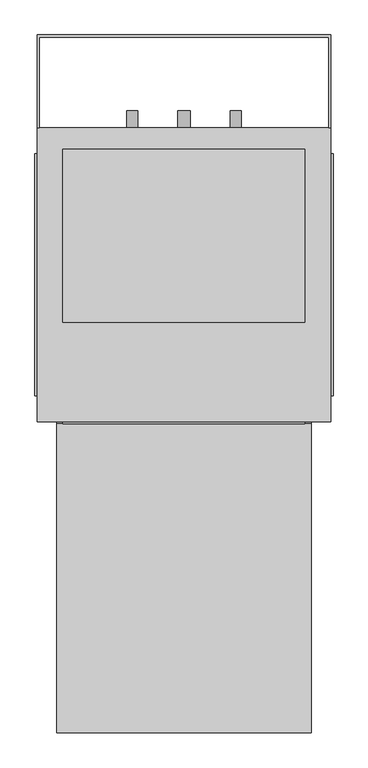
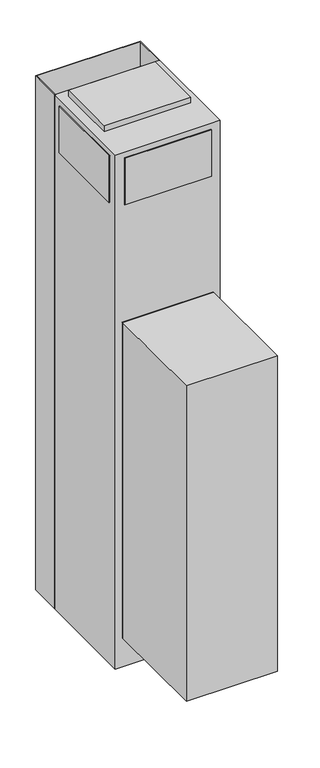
"""IFC4 building model written with IfcOpenShell, lengths in millimetres: proxy geometry, Exposed_Modular_Fan_Coil_Unit_-_MXY_-_IEC_-_2-Pipe_Cool-EHeat_-_NoRisers_2022 : Size 03 - 277v/60Hz/1Ph - 4 Row 3.0kW."""

from ifc_helpers import new_model, si_unit, point, frame, frame_2d, origin, origin_with_axes, place, context, project, spatial, polyline, circle_curve, trimmed, segment, composite_curve, outline, extrude, source, transform, mapped, element, save


def mechanical_equipment_d5801679(model_context):
    return source(origin(), model_context, "Body", "SweptSolid", [
        extrude(outline(polyline([(1356.1480703, 439.8118862), (1346.2, 471.9852728), (1488.3709244, 471.9852728), (1465.3489183, 439.8118862), (1356.1480703, 439.8118862)])), frame((0.0, -193.675, 0.0), z_axis=(0.0, 1.0, 0.0), x_axis=(0.0, 0.0, 1.0)), (0.0, 0.0, 1.0), 3.175),
        extrude(outline(polyline([(1435.1473557, 478.7436058), (1431.9449632, 504.825), (1461.1738042, 504.825), (1469.2382193, 478.7436058), (1435.1473557, 478.7436058)])), frame((0.0, -193.675, 0.0), z_axis=(0.0, 1.0, 0.0), x_axis=(0.0, 0.0, 1.0)), (0.0, 0.0, 1.0), 3.175),
        extrude(outline(polyline([(1383.2838288, 504.825), (1379.6183279, 478.7436058), (1346.2, 478.7436058), (1354.8342372, 504.825), (1383.2838288, 504.825)])), frame((0.0, -193.675, 0.0), z_axis=(0.0, 1.0, 0.0), x_axis=(0.0, 0.0, 1.0)), (0.0, 0.0, 1.0), 3.175),
        extrude(outline(polyline([(1422.5989903, 504.825), (1424.8808166, 478.7436058), (1388.9432681, 478.7436058), (1391.6845331, 504.825), (1422.5989903, 504.825)])), frame((0.0, -193.675, 0.0), z_axis=(0.0, 1.0, 0.0), x_axis=(0.0, 0.0, 1.0)), (0.0, 0.0, 1.0), 3.175),
        extrude(outline(polyline([(555.625, -190.5), (555.625, -644.525), (180.975, -644.525), (180.975, -190.5), (555.625, -190.5)])), frame((0.0, 0.0, 127.0), z_axis=(0.0, 0.0, 1.0), x_axis=(1.0, 0.0, 0.0)), (0.0, 0.0, 1.0), 1371.6),
        extrude(outline(polyline([(152.4, 381.0), (584.2, 381.0), (584.2, 244.475), (581.025, 244.475), (581.025, 377.825), (155.575, 377.825), (155.575, 244.475), (152.4, 244.475), (152.4, 381.0)])), origin_with_axes(), (0.0, 0.0, 1.0), 2235.2),
        extrude(outline(composite_curve([segment(trimmed(circle_curve(frame_2d((990.6, 444.5)), 7.9375), [point((990.6, 452.4375))], [point((990.6, 436.5625))], False, "CARTESIAN"), True, "CONTINUOUS"), segment(trimmed(circle_curve(frame_2d((990.6, 444.5)), 7.9375), [point((990.6, 436.5625))], [point((990.6, 452.4375))], False, "CARTESIAN"), True, "CONTINUOUS")], self_intersect=False)), frame((0.0, 244.475, 0.0), z_axis=(0.0, 1.0, 0.0), x_axis=(0.0, 0.0, 1.0)), (0.0, 0.0, 1.0), 25.4),
        extrude(outline(composite_curve([segment(trimmed(circle_curve(frame_2d((990.6, 292.1)), 7.9375), [point((990.6, 300.0375))], [point((990.6, 284.1625))], False, "CARTESIAN"), True, "CONTINUOUS"), segment(trimmed(circle_curve(frame_2d((990.6, 292.1)), 7.9375), [point((990.6, 284.1625))], [point((990.6, 300.0375))], False, "CARTESIAN"), True, "CONTINUOUS")], self_intersect=False)), frame((0.0, 244.475, 0.0), z_axis=(0.0, 1.0, 0.0), x_axis=(0.0, 0.0, 1.0)), (0.0, 0.0, 1.0), 25.4),
        extrude(outline(composite_curve([segment(trimmed(circle_curve(frame_2d((127.0, 368.3)), 9.525), [point((127.0, 377.825))], [point((127.0, 358.775))], False, "CARTESIAN"), True, "CONTINUOUS"), segment(trimmed(circle_curve(frame_2d((127.0, 368.3)), 9.525), [point((127.0, 358.775))], [point((127.0, 377.825))], False, "CARTESIAN"), True, "CONTINUOUS")], self_intersect=False)), frame((0.0, 244.475, 0.0), z_axis=(0.0, 1.0, 0.0), x_axis=(0.0, 0.0, 1.0)), (0.0, 0.0, 1.0), 25.4),
        extrude(outline(polyline([(555.625, -190.5), (180.975, -190.5), (180.975, -187.325), (555.625, -187.325), (555.625, -190.5)])), frame((0.0, 0.0, 127.0), z_axis=(0.0, 0.0, 1.0), x_axis=(1.0, 0.0, 0.0)), (0.0, 0.0, 1.0), 1371.6),
        extrude(outline(polyline([(587.375, 206.375), (587.375, -149.225), (584.2, -149.225), (584.2, 206.375), (587.375, 206.375)])), frame((0.0, 0.0, 2006.6), z_axis=(0.0, 0.0, 1.0), x_axis=(1.0, 0.0, 0.0)), (0.0, 0.0, 1.0), 203.2),
        extrude(outline(polyline([(149.225, -149.225), (149.225, 206.375), (152.4, 206.375), (152.4, -149.225), (149.225, -149.225)])), frame((0.0, 0.0, 2006.6), z_axis=(0.0, 0.0, 1.0), x_axis=(1.0, 0.0, 0.0)), (0.0, 0.0, 1.0), 203.2),
        extrude(outline(polyline([(546.1, -190.5), (190.5, -190.5), (190.5, -187.325), (546.1, -187.325), (546.1, -190.5)])), frame((0.0, 0.0, 2006.6), z_axis=(0.0, 0.0, 1.0), x_axis=(1.0, 0.0, 0.0)), (0.0, 0.0, 1.0), 203.2),
        extrude(outline(polyline([(546.1, 212.725), (546.1, -41.275), (190.5, -41.275), (190.5, 212.725), (546.1, 212.725)])), frame((0.0, 0.0, 2235.2), z_axis=(0.0, 0.0, 1.0), x_axis=(1.0, 0.0, 0.0)), (0.0, 0.0, 1.0), 25.4),
        extrude(outline(polyline([(584.2, 244.475), (584.2, -187.325), (152.4, -187.325), (152.4, 244.475), (584.2, 244.475)])), origin_with_axes(), (0.0, 0.0, 1.0), 2235.2),
    ])


if __name__ == "__main__":
    model = new_model("IFC4")
    model_context = context("Model", 3, world=origin())
    ifc_project = project(units=[si_unit("LENGTHUNIT", "METRE", prefix="MILLI")], contexts=[model_context])
    site = spatial("IfcSite", under=ifc_project)
    building = spatial("IfcBuilding", under=site)
    placement = place(None, origin())
    mechanical_equipment_shape = mechanical_equipment_d5801679(model_context)
    element("IfcBuildingElementProxy", 1, Name="Exposed_Modular_Fan_Coil_Unit_-_MXY_-_IEC_-_2-Pipe_Cool-EHeat_-_NoRisers_2022 : Size 03 - 277v/60Hz/1Ph - 4 Row 3.0kW", ObjectType="Exposed_Modular_Fan_Coil_Unit_-_MXY_-_IEC_-_2-Pipe_Cool-EHeat_-_NoRisers_2022 : Size 03 - 277v/60Hz/1Ph - 4 Row 3.0kW", at=placement, inside=building, context=model_context, shape_type="MappedRepresentation", body=[
        mapped(mechanical_equipment_shape, transform((0.0, 0.0, 0.0), x_axis=(1.0, 0.0, 0.0), y_axis=(0.0, 1.0, 0.0), z_axis=(0.0, 0.0, 1.0))),
    ])
    save(model, "model.ifc")
